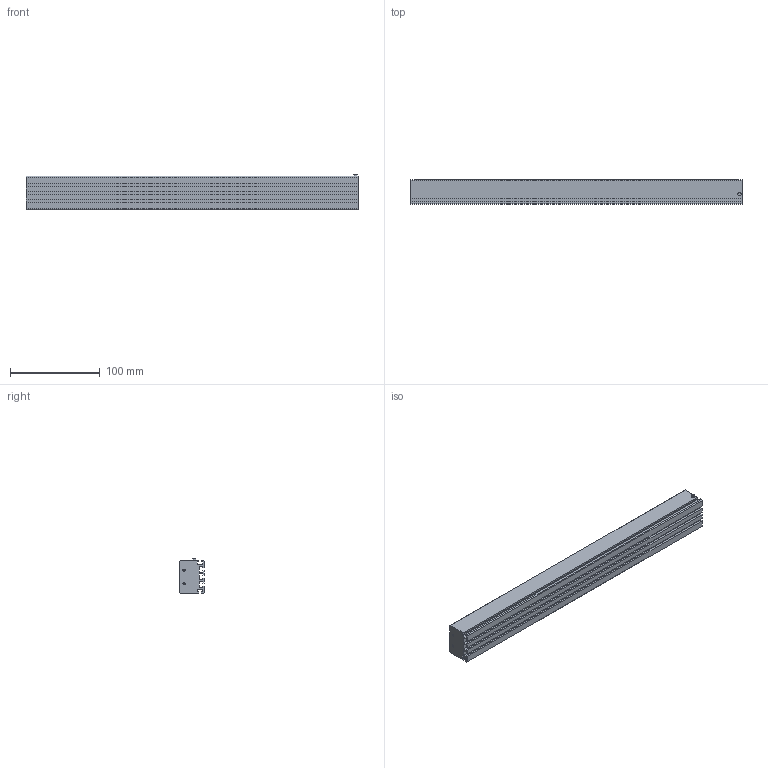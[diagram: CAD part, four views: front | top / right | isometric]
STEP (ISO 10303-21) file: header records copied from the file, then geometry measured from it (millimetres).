
FILE_DESCRIPTION (( 'STEP AP203' ), '1' );
FILE_NAME ('LRD-B6-370.STEP', '2022-08-25T05:35:56', ( 'TNT' ), ( '' ), 'SwSTEP 2.0', 'SolidWorks 2018', '' );
FILE_SCHEMA (( 'CONFIG_CONTROL_DESIGN' ));
Length unit declared in the file: millimetre
Products named in the file (1): LRD-B6-370
Bounding box: 370 x 27.7 x 39.1 mm (x, y, z)
Volume: 314471.5 mm3; surface area: 81452.1 mm2
Topology: 1 solids, 1 shells, 74 faces, 202 edges, 128 vertices
Faces by surface type: plane 56, cylinder 10, cone 8
Entity records: 2323 total; most frequent: CARTESIAN_POINT 397, ORIENTED_EDGE 388, DIRECTION 364, EDGE_CURVE 194, VECTOR 174, LINE 174, VERTEX_POINT 128, AXIS2_PLACEMENT_3D 95
